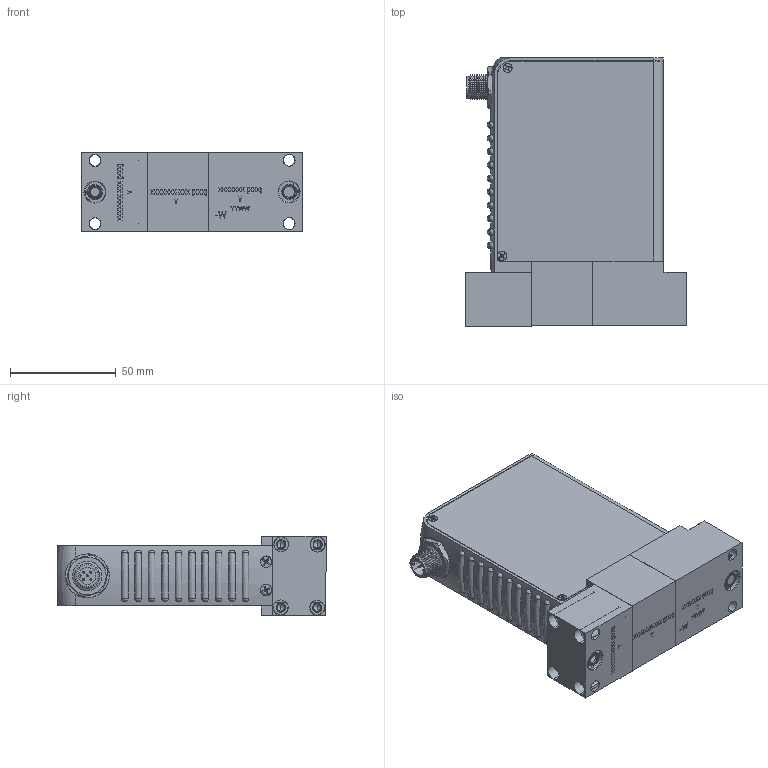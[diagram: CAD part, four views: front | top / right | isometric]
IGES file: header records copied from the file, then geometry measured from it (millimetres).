
Start section: SolidWorks IGES file using analytic representation for surfaces
Global section: file name: G:\Engineering\CAD MODELS FOR SALES\CAD MODEL STORAGE\GF\GF125\CUSTOMER FILES\IGES\GF100-120-125-BX-DX.IGS; native system: SolidWorks 2020; preprocessor: SolidWorks 2020; author: CFehr; date: 230215.134352; units: inch
Bounding box: 104.95 x 127.22 x 37.76 mm (x, y, z)
Volume: 77763.2 mm3; surface area: 88378.5 mm2
Topology: 33 solids, 33 shells, 2960 faces, 7961 edges, 5177 vertices
Faces by surface type: plane 1774, revolution 836, bspline 350
